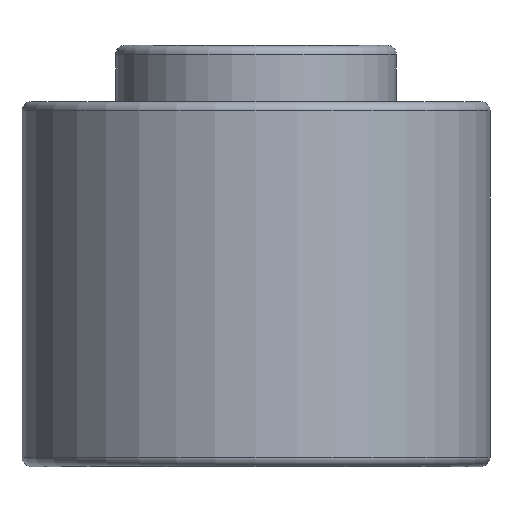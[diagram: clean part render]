
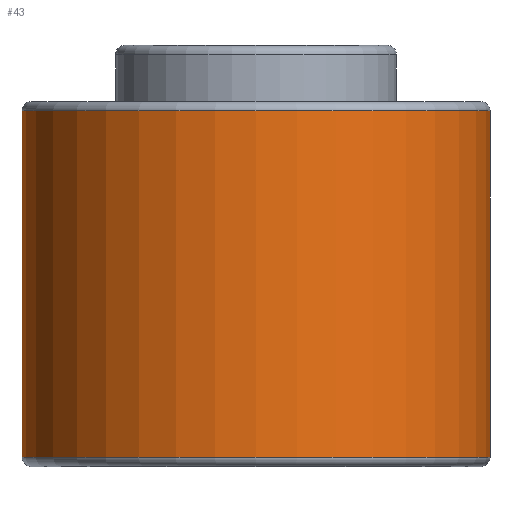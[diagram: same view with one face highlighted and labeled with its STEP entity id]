
A CAD part, front view. The second image highlights one B-rep face of the part: STEP entity #43.
In plain terms, the highlighted cylindrical face has radius 25 mm (diameter 50 mm), a full revolution.
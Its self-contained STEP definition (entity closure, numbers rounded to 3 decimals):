
#43=ADVANCED_FACE('',(#56,#57),#53,.T.);
#53=CYLINDRICAL_SURFACE('',#141,25.);
#56=FACE_BOUND('',#74,.T.);
#57=FACE_BOUND('',#75,.T.);
#74=EDGE_LOOP('',(#92));
#75=EDGE_LOOP('',(#93));
#92=ORIENTED_EDGE('',*,*,#120,.F.);
#93=ORIENTED_EDGE('',*,*,#121,.T.);
#110=VERTEX_POINT('',#200);
#111=VERTEX_POINT('',#202);
#120=EDGE_CURVE('',#110,#110,#129,.T.);
#121=EDGE_CURVE('',#111,#111,#130,.T.);
#129=CIRCLE('',#139,25.);
#130=CIRCLE('',#140,25.);
#139=AXIS2_PLACEMENT_3D('',#199,#160,#161);
#140=AXIS2_PLACEMENT_3D('',#201,#162,#163);
#141=AXIS2_PLACEMENT_3D('',#203,#164,#165);
#160=DIRECTION('',(0.,0.,-1.));
#161=DIRECTION('',(-1.,0.,0.));
#162=DIRECTION('',(0.,0.,-1.));
#163=DIRECTION('',(-1.,0.,0.));
#164=DIRECTION('',(0.,0.,-1.));
#165=DIRECTION('',(-1.,0.,0.));
#199=CARTESIAN_POINT('',(0.,0.,1.));
#200=CARTESIAN_POINT('',(-25.,0.,1.));
#201=CARTESIAN_POINT('',(0.,0.,38.));
#202=CARTESIAN_POINT('',(-25.,0.,38.));
#203=CARTESIAN_POINT('',(0.,0.,0.));
